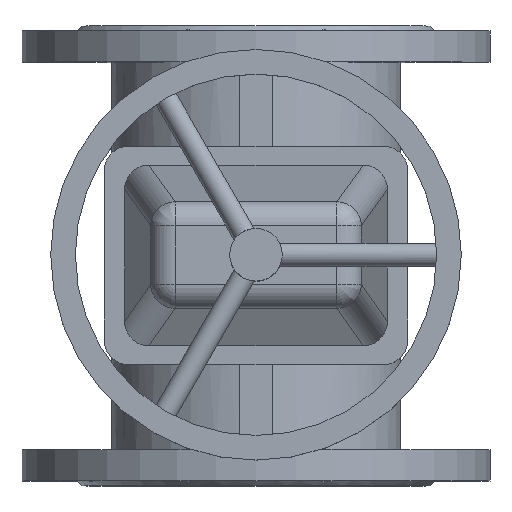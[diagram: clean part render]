
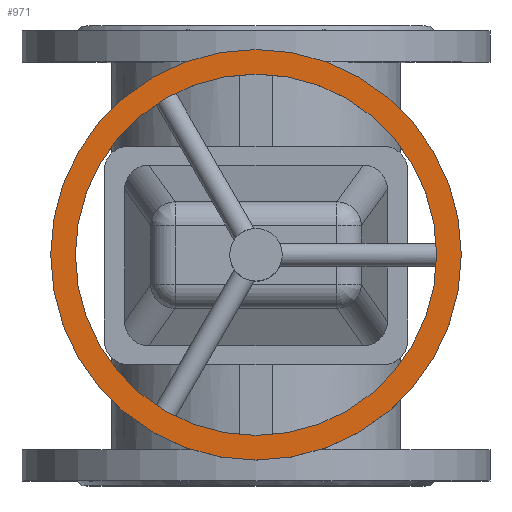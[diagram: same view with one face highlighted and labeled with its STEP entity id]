
A CAD part, top view. The second image highlights one B-rep face of the part: STEP entity #971.
In plain terms, the highlighted planar face has unit normal (0, 0, 1).
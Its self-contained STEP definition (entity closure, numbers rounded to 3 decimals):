
#971=ADVANCED_FACE('',(#2100,#2102),#2104,.T.);
#2100=FACE_BOUND('',#2101,.T.);
#2101=EDGE_LOOP('',(#2677));
#2102=FACE_BOUND('',#2103,.T.);
#2103=EDGE_LOOP('',(#2678));
#2104=PLANE('',#2105);
#2105=AXIS2_PLACEMENT_3D('',#2106,#2107,#2108);
#2106=CARTESIAN_POINT('',(0.,0.,428.5));
#2107=DIRECTION('',(0.,0.,1.));
#2108=DIRECTION('',(0.,-1.,0.));
#2677=ORIENTED_EDGE('',*,*,#2959,.T.);
#2678=ORIENTED_EDGE('',*,*,#2957,.T.);
#2957=EDGE_CURVE('',#3427,#3427,#3428,.F.);
#2959=EDGE_CURVE('',#3431,#3431,#3432,.T.);
#3427=VERTEX_POINT('',#5847);
#3428=CIRCLE('',#5848,110.);
#3431=VERTEX_POINT('',#5857);
#3432=CIRCLE('',#5858,125.);
#5847=CARTESIAN_POINT('',(0.,-110.,428.5));
#5848=AXIS2_PLACEMENT_3D('',#5849,#5850,#5851);
#5849=CARTESIAN_POINT('',(0.,0.,428.5));
#5850=DIRECTION('',(0.,0.,1.));
#5851=DIRECTION('',(0.,-1.,0.));
#5857=CARTESIAN_POINT('',(0.,-125.,428.5));
#5858=AXIS2_PLACEMENT_3D('',#5859,#5860,#5861);
#5859=CARTESIAN_POINT('',(0.,0.,428.5));
#5860=DIRECTION('',(0.,0.,1.));
#5861=DIRECTION('',(0.,-1.,0.));
